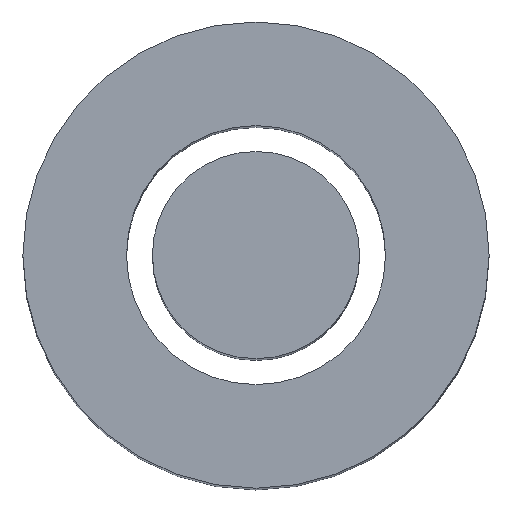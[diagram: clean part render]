
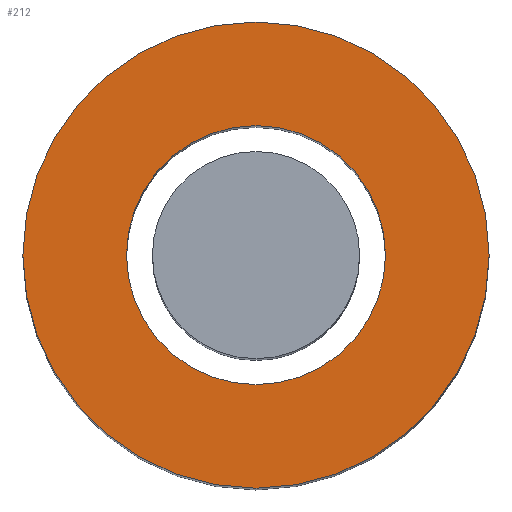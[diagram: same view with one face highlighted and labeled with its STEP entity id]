
A CAD part, top view. The second image highlights one B-rep face of the part: STEP entity #212.
In plain terms, the highlighted planar face has unit normal (0, 0, 1).
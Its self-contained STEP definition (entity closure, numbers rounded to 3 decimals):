
#46 = VERTEX_POINT('',#47);
#47 = CARTESIAN_POINT('',(4.5,0.,20.));
#54 = CYLINDRICAL_SURFACE('',#55,4.5);
#55 = AXIS2_PLACEMENT_3D('',#56,#57,#58);
#56 = CARTESIAN_POINT('',(0.,0.,0.));
#57 = DIRECTION('',(-0.,-0.,-1.));
#58 = DIRECTION('',(1.,0.,0.));
#73 = EDGE_CURVE('',#46,#46,#74,.T.);
#74 = SURFACE_CURVE('',#75,(#80,#87),.PCURVE_S1.);
#75 = CIRCLE('',#76,4.5);
#76 = AXIS2_PLACEMENT_3D('',#77,#78,#79);
#77 = CARTESIAN_POINT('',(0.,0.,20.));
#78 = DIRECTION('',(0.,0.,1.));
#79 = DIRECTION('',(1.,0.,0.));
#80 = PCURVE('',#54,#81);
#81 = DEFINITIONAL_REPRESENTATION('',(#82),#86);
#82 = LINE('',#83,#84);
#83 = CARTESIAN_POINT('',(-0.,-20.));
#84 = VECTOR('',#85,1.);
#85 = DIRECTION('',(-1.,0.));
#86 = ( GEOMETRIC_REPRESENTATION_CONTEXT(2) 
PARAMETRIC_REPRESENTATION_CONTEXT() REPRESENTATION_CONTEXT('2D SPACE',''
  ) );
#87 = PCURVE('',#88,#93);
#88 = PLANE('',#89);
#89 = AXIS2_PLACEMENT_3D('',#90,#91,#92);
#90 = CARTESIAN_POINT('',(0.,0.,20.));
#91 = DIRECTION('',(0.,0.,1.));
#92 = DIRECTION('',(1.,0.,-0.));
#93 = DEFINITIONAL_REPRESENTATION('',(#94),#98);
#94 = CIRCLE('',#95,4.5);
#95 = AXIS2_PLACEMENT_2D('',#96,#97);
#96 = CARTESIAN_POINT('',(0.,0.));
#97 = DIRECTION('',(1.,0.));
#98 = ( GEOMETRIC_REPRESENTATION_CONTEXT(2) 
PARAMETRIC_REPRESENTATION_CONTEXT() REPRESENTATION_CONTEXT('2D SPACE',''
  ) );
#134 = VERTEX_POINT('',#135);
#135 = CARTESIAN_POINT('',(2.5,0.,20.));
#142 = CYLINDRICAL_SURFACE('',#143,2.5);
#143 = AXIS2_PLACEMENT_3D('',#144,#145,#146);
#144 = CARTESIAN_POINT('',(0.,0.,0.));
#145 = DIRECTION('',(-0.,-0.,-1.));
#146 = DIRECTION('',(1.,0.,0.));
#161 = EDGE_CURVE('',#134,#134,#162,.T.);
#162 = SURFACE_CURVE('',#163,(#168,#175),.PCURVE_S1.);
#163 = CIRCLE('',#164,2.5);
#164 = AXIS2_PLACEMENT_3D('',#165,#166,#167);
#165 = CARTESIAN_POINT('',(0.,0.,20.));
#166 = DIRECTION('',(0.,0.,1.));
#167 = DIRECTION('',(1.,0.,0.));
#168 = PCURVE('',#142,#169);
#169 = DEFINITIONAL_REPRESENTATION('',(#170),#174);
#170 = LINE('',#171,#172);
#171 = CARTESIAN_POINT('',(-0.,-20.));
#172 = VECTOR('',#173,1.);
#173 = DIRECTION('',(-1.,0.));
#174 = ( GEOMETRIC_REPRESENTATION_CONTEXT(2) 
PARAMETRIC_REPRESENTATION_CONTEXT() REPRESENTATION_CONTEXT('2D SPACE',''
  ) );
#175 = PCURVE('',#88,#176);
#176 = DEFINITIONAL_REPRESENTATION('',(#177),#181);
#177 = CIRCLE('',#178,2.5);
#178 = AXIS2_PLACEMENT_2D('',#179,#180);
#179 = CARTESIAN_POINT('',(0.,0.));
#180 = DIRECTION('',(1.,0.));
#181 = ( GEOMETRIC_REPRESENTATION_CONTEXT(2) 
PARAMETRIC_REPRESENTATION_CONTEXT() REPRESENTATION_CONTEXT('2D SPACE',''
  ) );
#212 = ADVANCED_FACE('',(#213,#216),#88,.T.);
#213 = FACE_BOUND('',#214,.T.);
#214 = EDGE_LOOP('',(#215));
#215 = ORIENTED_EDGE('',*,*,#73,.T.);
#216 = FACE_BOUND('',#217,.T.);
#217 = EDGE_LOOP('',(#218));
#218 = ORIENTED_EDGE('',*,*,#161,.F.);
